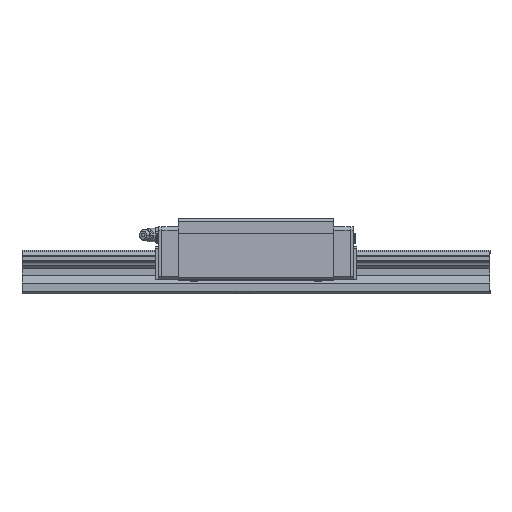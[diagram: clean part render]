
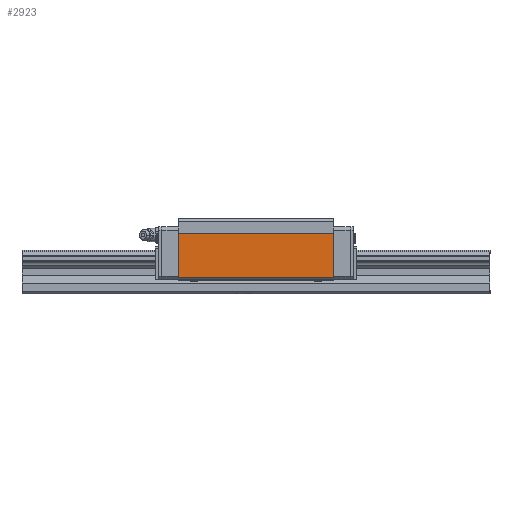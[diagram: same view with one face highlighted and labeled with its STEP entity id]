
A CAD part, top view. The second image highlights one B-rep face of the part: STEP entity #2923.
In plain terms, the highlighted planar face has unit normal (0, 0, 1).
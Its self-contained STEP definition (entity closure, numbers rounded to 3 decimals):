
#434 = FACE_OUTER_BOUND ( 'NONE', #9528, .T. ) ;
#873 = CARTESIAN_POINT ( 'NONE',  ( 73.5, 7., 29.7 ) ) ;
#917 = VERTEX_POINT ( 'NONE', #2918 ) ;
#1673 = VECTOR ( 'NONE', #3170, 1000. ) ;
#1771 = CARTESIAN_POINT ( 'NONE',  ( 166.5, 35.7, 29.7 ) ) ;
#1843 = CARTESIAN_POINT ( 'NONE',  ( 73.5, 9.353, 29.7 ) ) ;
#2185 = ORIENTED_EDGE ( 'NONE', *, *, #5957, .T. ) ;
#2326 = VERTEX_POINT ( 'NONE', #1843 ) ;
#2371 = CARTESIAN_POINT ( 'NONE',  ( 166.5, 9.353, 29.7 ) ) ;
#2795 = VECTOR ( 'NONE', #6450, 1000. ) ;
#2876 = ORIENTED_EDGE ( 'NONE', *, *, #3014, .T. ) ;
#2918 = CARTESIAN_POINT ( 'NONE',  ( 73.5, 35.7, 29.7 ) ) ;
#2923 = ADVANCED_FACE ( 'NONE', ( #434 ), #10244, .T. ) ;
#3014 = EDGE_CURVE ( 'NONE', #2326, #7961, #3629, .T. ) ;
#3170 = DIRECTION ( 'NONE',  ( -1., 0., 0. ) ) ;
#3214 = ORIENTED_EDGE ( 'NONE', *, *, #4692, .T. ) ;
#3629 = LINE ( 'NONE', #8661, #10374 ) ;
#3988 = AXIS2_PLACEMENT_3D ( 'NONE', #6190, #5237, #7755 ) ;
#4085 = LINE ( 'NONE', #7307, #7906 ) ;
#4093 = LINE ( 'NONE', #873, #2795 ) ;
#4692 = EDGE_CURVE ( 'NONE', #9270, #917, #7423, .T. ) ;
#5237 = DIRECTION ( 'NONE',  ( 0., 0., 1. ) ) ;
#5957 = EDGE_CURVE ( 'NONE', #917, #2326, #4093, .T. ) ;
#5959 = EDGE_CURVE ( 'NONE', #9270, #7961, #4085, .T. ) ;
#6190 = CARTESIAN_POINT ( 'NONE',  ( 166.5, 35.7, 29.7 ) ) ;
#6450 = DIRECTION ( 'NONE',  ( 0., -1., 0. ) ) ;
#7307 = CARTESIAN_POINT ( 'NONE',  ( 166.5, 7., 29.7 ) ) ;
#7423 = LINE ( 'NONE', #8815, #1673 ) ;
#7755 = DIRECTION ( 'NONE',  ( 1., 0., 0. ) ) ;
#7906 = VECTOR ( 'NONE', #9830, 1000. ) ;
#7961 = VERTEX_POINT ( 'NONE', #2371 ) ;
#8661 = CARTESIAN_POINT ( 'NONE',  ( 166.5, 9.353, 29.7 ) ) ;
#8815 = CARTESIAN_POINT ( 'NONE',  ( 166.5, 35.7, 29.7 ) ) ;
#9009 = ORIENTED_EDGE ( 'NONE', *, *, #5959, .F. ) ;
#9270 = VERTEX_POINT ( 'NONE', #1771 ) ;
#9528 = EDGE_LOOP ( 'NONE', ( #9009, #3214, #2185, #2876 ) ) ;
#9555 = DIRECTION ( 'NONE',  ( 1., 0., 0. ) ) ;
#9830 = DIRECTION ( 'NONE',  ( 0., -1., 0. ) ) ;
#10244 = PLANE ( 'NONE',  #3988 ) ;
#10374 = VECTOR ( 'NONE', #9555, 1000. ) ;
